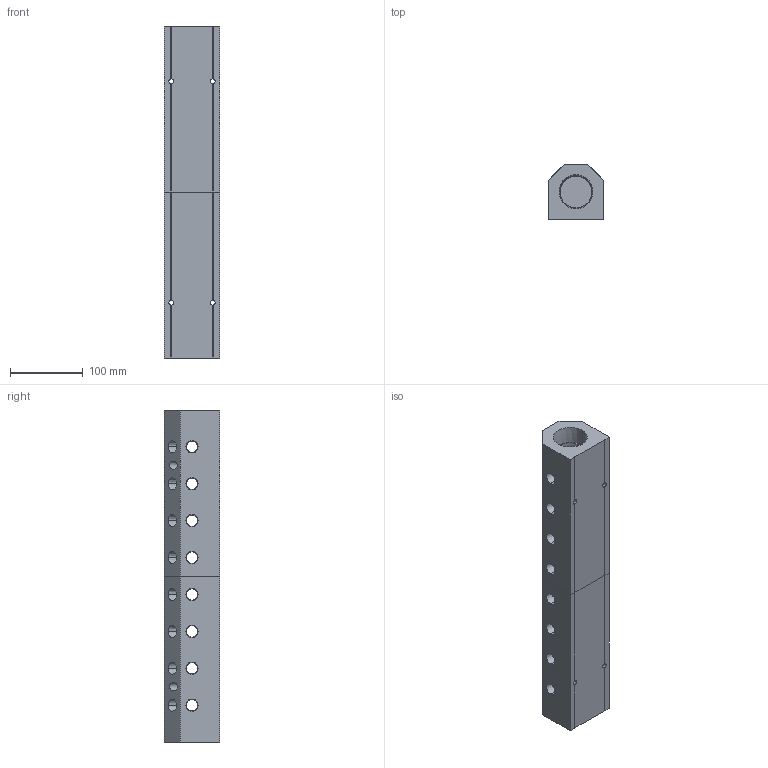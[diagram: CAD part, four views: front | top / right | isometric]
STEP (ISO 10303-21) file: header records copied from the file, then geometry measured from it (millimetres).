
FILE_DESCRIPTION (( 'STEP AP214' ), '1' );
FILE_NAME ('ALM8ABCDE-N6N24-457RB.step', '2022-02-07T09:16:12', ( '' ), ( '' ), 'SwSTEP 2.0', 'SolidWorks 2020', '' );
FILE_SCHEMA (( 'AUTOMOTIVE_DESIGN' ));
Length unit declared in the file: millimetre
Products named in the file (1): ALM8ABCDE-N6N24-457RB
Bounding box: 76.2 x 76.2 x 457 mm (x, y, z)
Volume: 1570323.3 mm3; surface area: 234878.7 mm2
Topology: 2 solids, 2 shells, 435 faces, 1178 edges, 772 vertices
Faces by surface type: plane 260, cone 84, bspline 71, cylinder 20
Entity records: 25915 total; most frequent: CARTESIAN_POINT 11177, ORIENTED_EDGE 2356, DIRECTION 1790, EDGE_CURVE 1178, VECTOR 820, LINE 820, VERTEX_POINT 772, EDGE_LOOP 548
